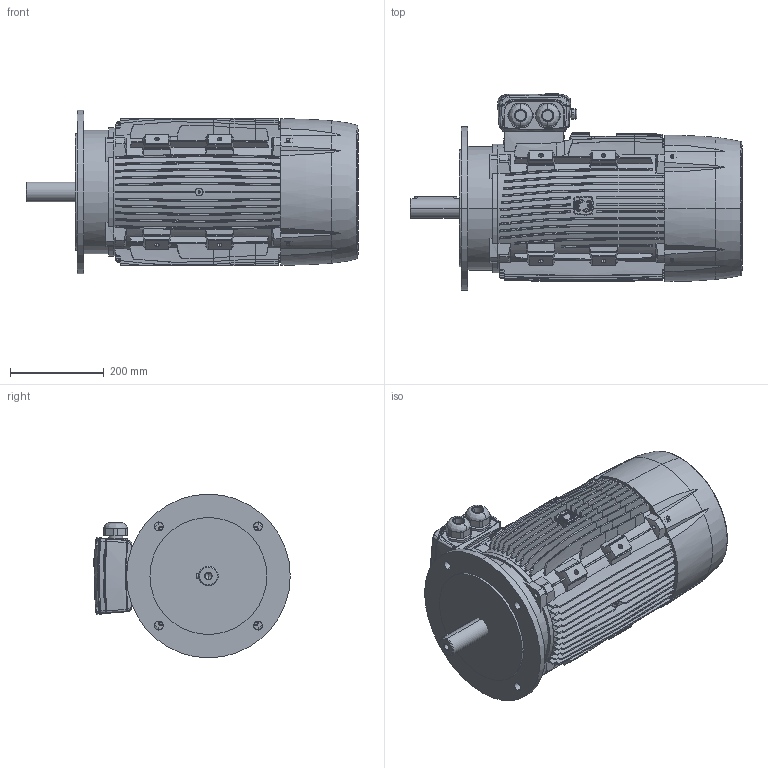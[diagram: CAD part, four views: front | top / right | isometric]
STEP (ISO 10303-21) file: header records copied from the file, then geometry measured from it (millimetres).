
FILE_DESCRIPTION (( 'STEP AP203' ), '1' );
FILE_NAME ('DELPHI_160L_B5.STEP', '2016-12-28T10:32:44', ( 'TECNICO' ), ( '' ), 'SwSTEP 2.0', 'SolidWorks 2015', '' );
FILE_SCHEMA (( 'CONFIG_CONTROL_DESIGN' ));
Products named in the file (7): DELPHI_160L_B5; BODY160L; B5160; NDE160; SH160L; FCV160; TBOX_160_180
Assembly tree (6 placements, depth 2):
  DELPHI_160L_B5
    BODY160L
    B5160
    NDE160
    SH160L
    FCV160
    TBOX_160_180
Bounding box: 710.01 x 420.23 x 350 mm (x, y, z)
Volume: 41846215.9 mm3; surface area: 2576484.9 mm2
Topology: 7 solids, 17 shells, 5596 faces, 14824 edges, 9467 vertices
Faces by surface type: plane 2553, bspline 1648, cylinder 971, cone 285, torus 139
Entity records: 282294 total; most frequent: CARTESIAN_POINT 164439, ORIENTED_EDGE 29557, DIRECTION 16290, EDGE_CURVE 14789, VERTEX_POINT 9467, B_SPLINE_CURVE_WITH_KNOTS 7740, EDGE_LOOP 5933, AXIS2_PLACEMENT_3D 5756
